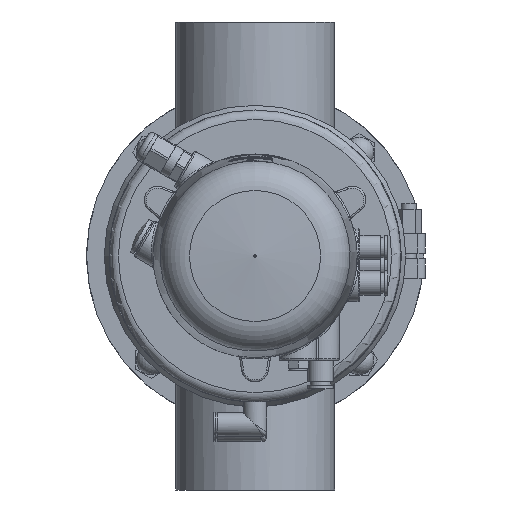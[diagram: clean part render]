
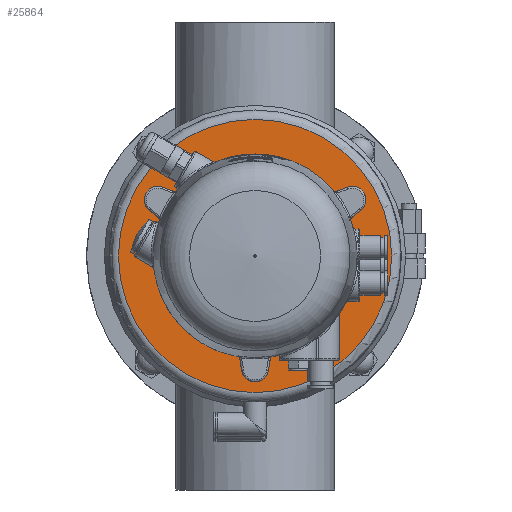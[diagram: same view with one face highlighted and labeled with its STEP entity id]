
A CAD part, front view. The second image highlights one B-rep face of the part: STEP entity #25864.
In plain terms, the highlighted planar face has unit normal (0, -1, 0) as drawn and (0, 1, 0) by its records, which use the part's own axes.
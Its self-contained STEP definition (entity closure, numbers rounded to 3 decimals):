
#1613 = AXIS2_PLACEMENT_3D ( 'NONE', #8651, #58536, #4367 ) ;
#4367 = DIRECTION ( 'NONE',  ( 0., 0., -1. ) ) ;
#7846 = VERTEX_POINT ( 'NONE', #18281 ) ;
#8651 = CARTESIAN_POINT ( 'NONE',  ( 0., 263., 0. ) ) ;
#10066 = VERTEX_POINT ( 'NONE', #13951 ) ;
#10144 = VERTEX_POINT ( 'NONE', #54480 ) ;
#12551 = FACE_BOUND ( 'NONE', #43666, .T. ) ;
#13951 = CARTESIAN_POINT ( 'NONE',  ( 0., 263., -73. ) ) ;
#14090 = EDGE_LOOP ( 'NONE', ( #42612 ) ) ;
#14887 = CIRCLE ( 'NONE', #34677, 2.1 ) ;
#16119 = VERTEX_POINT ( 'NONE', #45701 ) ;
#17180 = EDGE_CURVE ( 'NONE', #7846, #7846, #54001, .T. ) ;
#17560 = DIRECTION ( 'NONE',  ( 0., 0., 1. ) ) ;
#18281 = CARTESIAN_POINT ( 'NONE',  ( 0., 263., -10. ) ) ;
#21497 = DIRECTION ( 'NONE',  ( 0., 1., 0. ) ) ;
#25738 = AXIS2_PLACEMENT_3D ( 'NONE', #39082, #58482, #59493 ) ;
#25864 = ADVANCED_FACE ( 'NONE', ( #12551, #43064, #37799, #42737 ), #42416, .F. ) ;
#28053 = ORIENTED_EDGE ( 'NONE', *, *, #17180, .T. ) ;
#28540 = DIRECTION ( 'NONE',  ( 0., 0., -1. ) ) ;
#33711 = AXIS2_PLACEMENT_3D ( 'NONE', #42542, #21497, #17560 ) ;
#34677 = AXIS2_PLACEMENT_3D ( 'NONE', #52854, #62432, #53527 ) ;
#35313 = EDGE_CURVE ( 'NONE', #10066, #10066, #37185, .T. ) ;
#37185 = CIRCLE ( 'NONE', #1613, 73. ) ;
#37229 = AXIS2_PLACEMENT_3D ( 'NONE', #47965, #53931, #28540 ) ;
#37799 = FACE_OUTER_BOUND ( 'NONE', #62688, .T. ) ;
#39082 = CARTESIAN_POINT ( 'NONE',  ( 0., 263., 0. ) ) ;
#42416 = PLANE ( 'NONE',  #37229 ) ;
#42542 = CARTESIAN_POINT ( 'NONE',  ( 0., 263., -17.5 ) ) ;
#42612 = ORIENTED_EDGE ( 'NONE', *, *, #55713, .F. ) ;
#42737 = FACE_BOUND ( 'NONE', #52818, .T. ) ;
#43064 = FACE_BOUND ( 'NONE', #14090, .T. ) ;
#43666 = EDGE_LOOP ( 'NONE', ( #53053 ) ) ;
#45298 = CIRCLE ( 'NONE', #33711, 2.1 ) ;
#45701 = CARTESIAN_POINT ( 'NONE',  ( 0., 263., 19.6 ) ) ;
#47965 = CARTESIAN_POINT ( 'NONE',  ( -78., 263., 0. ) ) ;
#52818 = EDGE_LOOP ( 'NONE', ( #28053 ) ) ;
#52854 = CARTESIAN_POINT ( 'NONE',  ( 0., 263., 17.5 ) ) ;
#53053 = ORIENTED_EDGE ( 'NONE', *, *, #62416, .F. ) ;
#53527 = DIRECTION ( 'NONE',  ( 0., 0., 1. ) ) ;
#53931 = DIRECTION ( 'NONE',  ( 0., -1., 0. ) ) ;
#54001 = CIRCLE ( 'NONE', #25738, 10. ) ;
#54480 = CARTESIAN_POINT ( 'NONE',  ( 0., 263., -15.4 ) ) ;
#55713 = EDGE_CURVE ( 'NONE', #16119, #16119, #14887, .T. ) ;
#58482 = DIRECTION ( 'NONE',  ( 0., -1., 0. ) ) ;
#58536 = DIRECTION ( 'NONE',  ( 0., 1., 0. ) ) ;
#59072 = ORIENTED_EDGE ( 'NONE', *, *, #35313, .T. ) ;
#59493 = DIRECTION ( 'NONE',  ( 0., 0., -1. ) ) ;
#62416 = EDGE_CURVE ( 'NONE', #10144, #10144, #45298, .T. ) ;
#62432 = DIRECTION ( 'NONE',  ( 0., 1., 0. ) ) ;
#62688 = EDGE_LOOP ( 'NONE', ( #59072 ) ) ;
